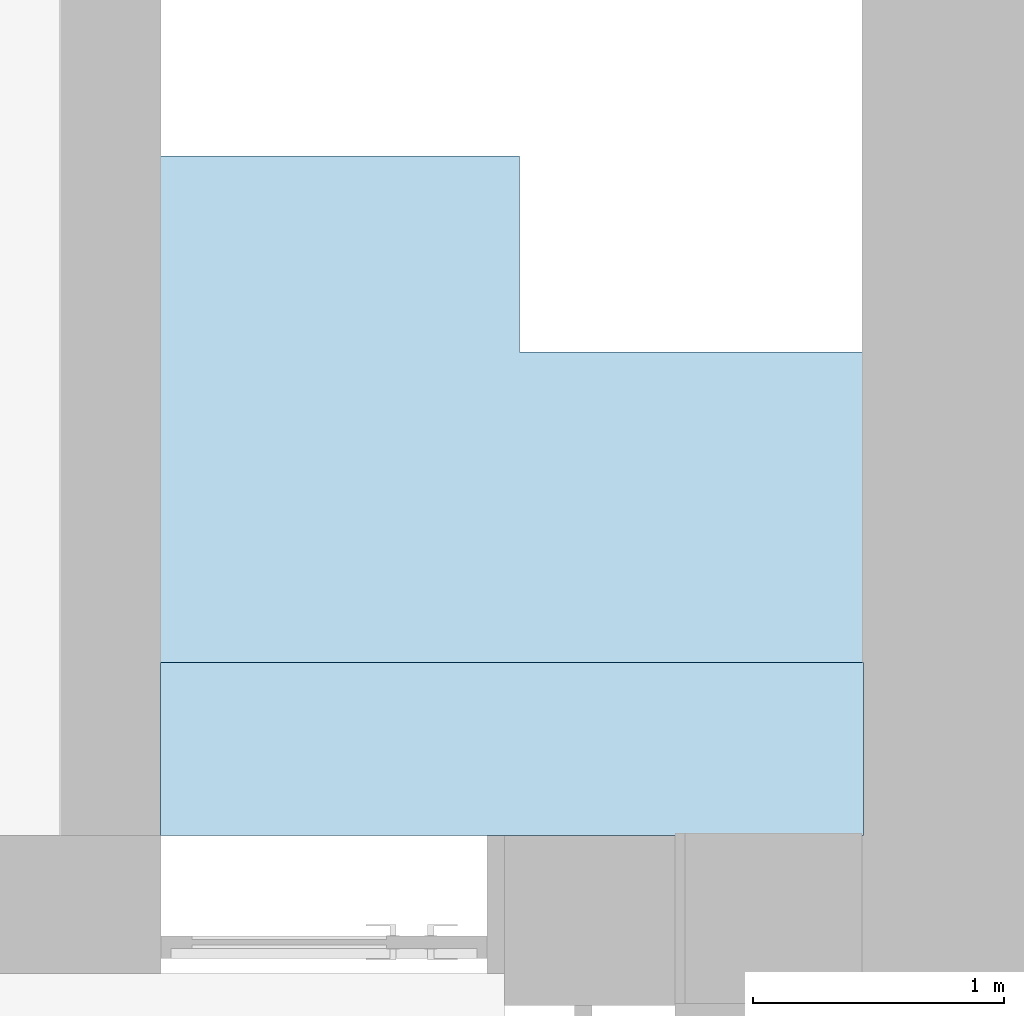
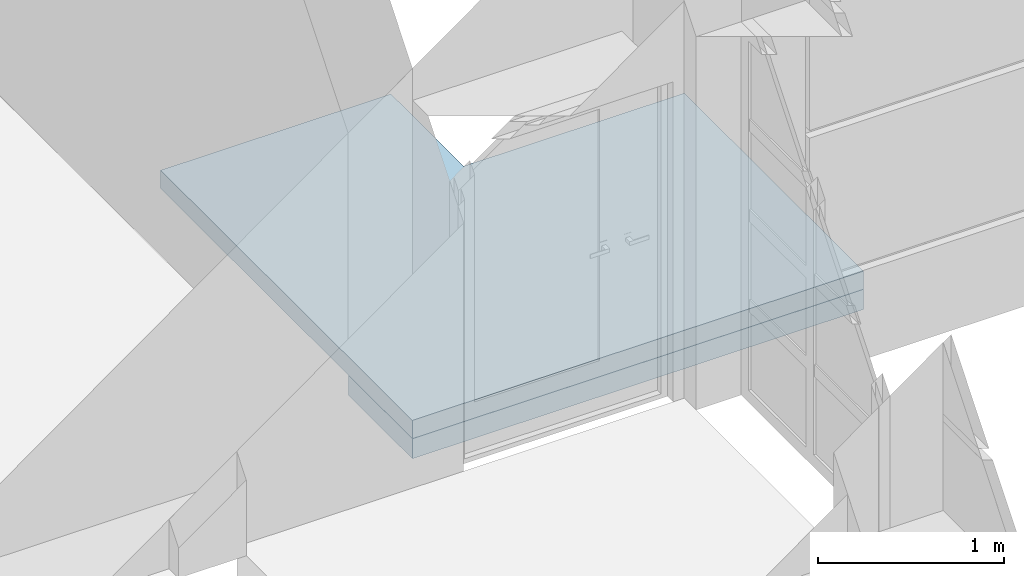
# One storey, part 27 of 66: 2 slabs.
"""IFC2X3 building model written with IfcOpenShell, lengths in millimetres."""

from ifc_helpers import new_model, entity, si_unit, converted_unit, derived_unit, direction, frame, frame_2d, origin, place, context, subcontext, project, spatial, polyline, rectangle, outline, extrude, material, layer, layer_set, layer_usage, element, save


model = new_model("IFC2X3")

# Units and contexts
model_context = context("Model", 3, precision=0.01, world=origin(), true_north=direction((6.12303176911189e-17, 1.0)))
body_context = subcontext(model_context, "Body", "Model", "MODEL_VIEW")
ifc_project = project(units=[si_unit("LENGTHUNIT", "METRE", prefix="MILLI"), si_unit("AREAUNIT", "SQUARE_METRE"), si_unit("VOLUMEUNIT", "CUBIC_METRE"), converted_unit("PLANEANGLEUNIT", "DEGREE", entity("IfcRatioMeasure", 0.0174532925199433), si_unit("PLANEANGLEUNIT", "RADIAN"), dimensions=[0, 0, 0, 0, 0, 0, 0]), si_unit("MASSUNIT", "GRAM", prefix="KILO"), derived_unit("MASSDENSITYUNIT", [(si_unit("MASSUNIT", "GRAM", prefix="KILO"), 1), (si_unit("LENGTHUNIT", "METRE"), -3)]), si_unit("TIMEUNIT", "SECOND"), si_unit("FREQUENCYUNIT", "HERTZ"), si_unit("THERMODYNAMICTEMPERATUREUNIT", "DEGREE_CELSIUS"), derived_unit("THERMALTRANSMITTANCEUNIT", [(si_unit("MASSUNIT", "GRAM", prefix="KILO"), 1), (si_unit("THERMODYNAMICTEMPERATUREUNIT", "KELVIN"), -1), (si_unit("TIMEUNIT", "SECOND"), -3)]), derived_unit("VOLUMETRICFLOWRATEUNIT", [(si_unit("LENGTHUNIT", "METRE"), 3), (si_unit("TIMEUNIT", "SECOND"), -1)]), si_unit("ELECTRICCURRENTUNIT", "AMPERE"), si_unit("ELECTRICVOLTAGEUNIT", "VOLT"), si_unit("POWERUNIT", "WATT"), si_unit("FORCEUNIT", "NEWTON", prefix="KILO"), si_unit("ILLUMINANCEUNIT", "LUX"), si_unit("LUMINOUSFLUXUNIT", "LUMEN"), si_unit("LUMINOUSINTENSITYUNIT", "CANDELA"), derived_unit("USERDEFINED", [(si_unit("MASSUNIT", "GRAM", prefix="KILO"), -1), (si_unit("LENGTHUNIT", "METRE"), -2), (si_unit("TIMEUNIT", "SECOND"), 3), (si_unit("LUMINOUSFLUXUNIT", "LUMEN"), 1)]), derived_unit("LINEARVELOCITYUNIT", [(si_unit("LENGTHUNIT", "METRE"), 1), (si_unit("TIMEUNIT", "SECOND"), -1)]), si_unit("PRESSUREUNIT", "PASCAL"), derived_unit("USERDEFINED", [(si_unit("LENGTHUNIT", "METRE"), -2), (si_unit("MASSUNIT", "GRAM", prefix="KILO"), 1), (si_unit("TIMEUNIT", "SECOND"), -2)])], contexts=[model_context])

# Site, building, storey
site_placement = place(None, frame((-151.875543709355, 2715.0, 0.0)))
site = spatial("IfcSite", under=ifc_project, at=site_placement, Name="Surface", CompositionType="ELEMENT")
building_placement = place(site_placement, origin())
building = spatial("IfcBuilding", under=site, at=building_placement, CompositionType="ELEMENT")
storey_placement = place(building_placement, frame((0.0, 0.0, 3350.0)))
storey = spatial("IfcBuildingStorey", under=building, at=storey_placement, Name="2 korrus", CompositionType="ELEMENT", Elevation=3350.00000000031)

# Slabs
ifc_material_1 = material(Name="Paint - Sand Beige")
slab_1_placement = place(storey_placement, origin())
element("IfcSlab", 1, at=slab_1_placement, inside=storey, material=ifc_material_1, Name="OBJEKT-014:OBJEKT-014", ObjectType="OBJEKT-014:OBJEKT-014", PredefinedType="FLOOR", context=body_context, shape_type="SweptSolid", body=[
    extrude(rectangle(XDim=688.515777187, YDim=2800.000000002, at=frame_2d((5.40012479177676e-13, 0.0), x_axis=(1.0, 0.0))), frame((33771.616268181, 6904.2578885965, -251.87692642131), z_axis=(0.0, 0.0, 1.0), x_axis=(0.0, -1.0, 0.0)), (0.0, 0.0, 1.0), 131.904602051),
])
ifc_material_2 = material(Name="Betoonplaat")
ifc_layer = layer(ifc_material_2, 120.0)
ifc_layer_set = layer_set([ifc_layer], Name="Floor:Trepimade1")
ifc_layer_usage = layer_usage(ifc_layer_set, "AXIS3", "POSITIVE", 0.0)
slab_2_placement = place(storey_placement, origin())
element("IfcSlab", 2, at=slab_2_placement, inside=storey, material=ifc_layer_usage, Name="Floor:Trepimade1", ObjectType="Floor:Trepimade1", PredefinedType="FLOOR", context=body_context, shape_type="SweptSolid", body=[
    extrude(outline(polyline([(-1544.39280192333, -1410.0), (1163.12047322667, -1410.0), (1163.12047322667, 20.0), (381.272328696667, 20.0), (381.272328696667, 1390.0), (-1544.39280192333, 1390.0), (-1544.39280192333, -1410.0)])), frame((33781.6162682, 8104.39280192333, 0.0), z_axis=(0.0, 0.0, -1.0), x_axis=(0.0, 1.0, 0.0)), (0.0, 0.0, 1.0), 120.0),
])

save(model, "model.ifc")
